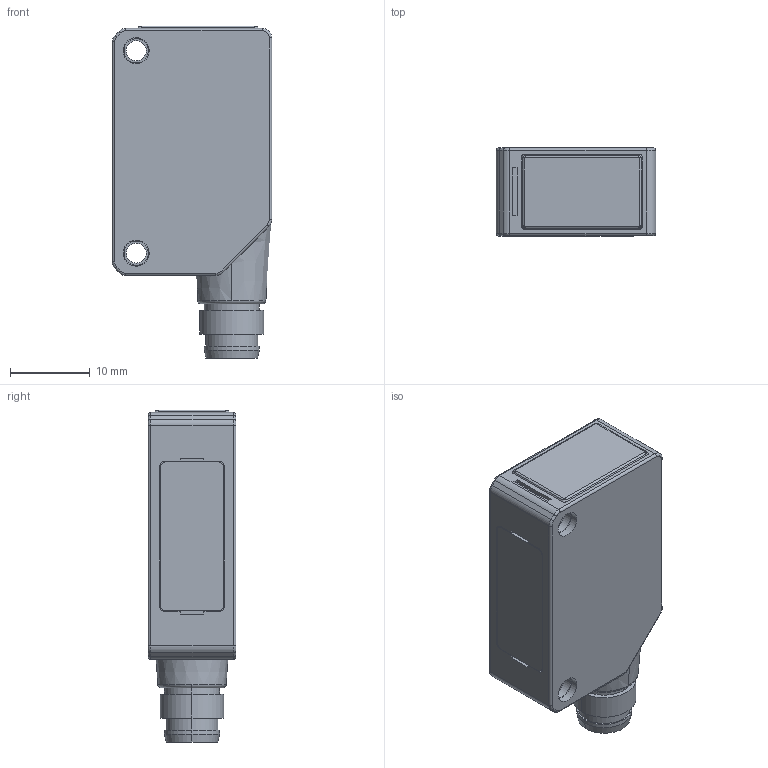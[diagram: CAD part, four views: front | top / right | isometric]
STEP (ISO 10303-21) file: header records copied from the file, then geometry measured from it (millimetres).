
FILE_DESCRIPTION(('CoCreate Modeling STEP Export'),'2;1');
FILE_NAME('Z4_Connector_Type_Thru-Beam_Emitter.stp','2019-10-04T14:36:34',(''),(''),'CoCreate Modeling STEP processor for AP214 (Solid Model)','CoCreate Modeling 16.50A 01-Dec-2009 (C) Parametric Technology GmbH','');
FILE_SCHEMA(('AUTOMOTIVE_DESIGN { 1 0 10303 214 1 1 1 1 }'));
Length unit declared in the file: millimetre
Products named in the file (2): Z4_Connector_Type_Thru-Beam_Emitter
Assembly tree (1 placements, depth 2):
  Z4_Connector_Type_Thru-Beam_Emitter
    Z4_Connector_Type_Thru-Beam_Emitter
Bounding box: 20 x 11 x 41.65 mm (x, y, z)
Volume: 6943.6 mm3; surface area: 3001.5 mm2
Topology: 1 solids, 1 shells, 174 faces, 412 edges, 261 vertices
Faces by surface type: cylinder 77, plane 65, torus 24, cone 4, bspline 4
Entity records: 5439 total; most frequent: CARTESIAN_POINT 1528, ORIENTED_EDGE 824, DIRECTION 791, EDGE_CURVE 412, AXIS2_PLACEMENT_3D 294, VERTEX_POINT 261, VECTOR 203, LINE 203
